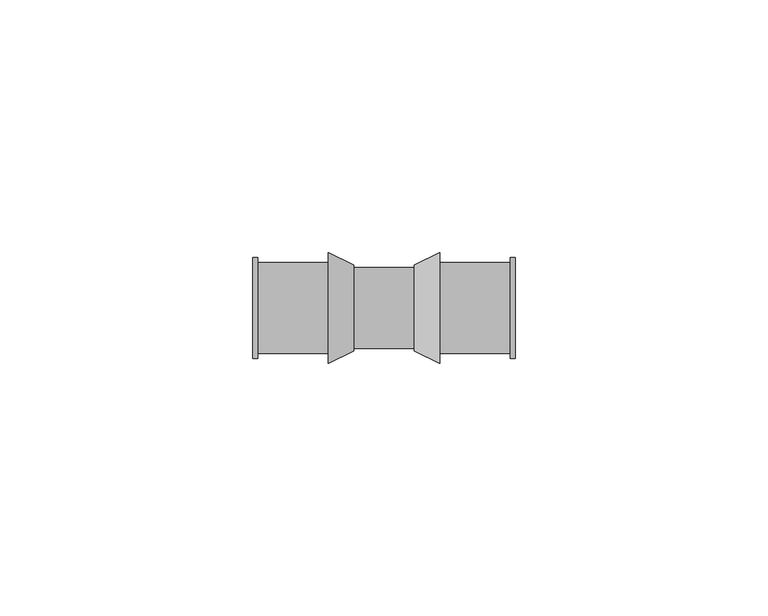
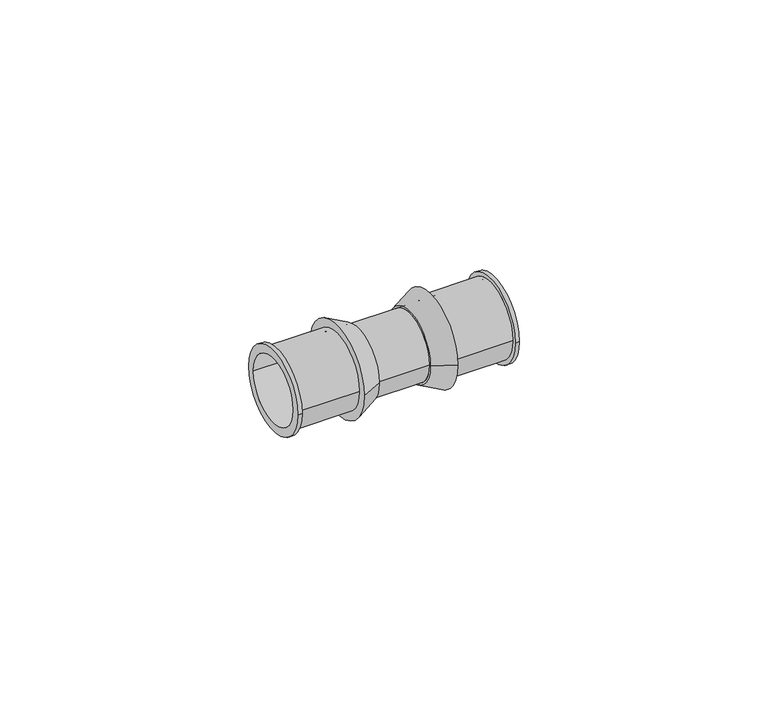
"""IFC4 building model written with IfcOpenShell, lengths in millimetres: pipe fitting geometry, SuperPipe_Coupling_SPressPlus : SuperPipe_Coupling_SPressPlus."""

from ifc_helpers import new_model, si_unit, point, frame, origin, origin_2d, place, context, project, spatial, polyline, circle_curve, trimmed, segment, composite_curve, outline, extrude, source, transform, mapped, element, save
from ifc_brep_helpers import plane_surface, cylinder_surface, revolved_surface, advanced_brep


def pipe_fitting_8bcbff30(model_context):
    return source(origin(), model_context, "Body", "SolidModel", [
        advanced_brep(
        [(-26.0, -10.0, 0.0), (-26.0, 10.0, 0.0), (-26.0, -8.0, 0.0), (-26.0, 8.0, 0.0), (-11.0, -9.0, 0.0), (-11.0, 9.0, 0.0), (-11.0, -8.0, 0.0), (-11.0, 8.0, 0.0), (-25.0, -8.0, 0.0), (-25.0, 8.0, 0.0), (-25.0, 9.0, 0.0), (-25.0, -9.0, 0.0), (-25.0, -10.0, 0.0), (-25.0, 10.0, 0.0)],
        [
            (0, 1, circle_curve(frame((-26.0, 0.0, 0.0), z_axis=(-1.0, 0.0, 0.0), x_axis=(0.0, 1.0, 0.0)), 10.0)),
            (1, 0, circle_curve(frame((-26.0, 0.0, 0.0), z_axis=(-1.0, 0.0, 0.0), x_axis=(0.0, 1.0, 0.0)), 10.0)),
            (2, 3, circle_curve(frame((-26.0, 0.0, 0.0), z_axis=(1.0, 0.0, 0.0), x_axis=(0.0, 1.0, 0.0)), 8.0)),
            (3, 2, circle_curve(frame((-26.0, 0.0, 0.0), z_axis=(1.0, 0.0, 0.0), x_axis=(0.0, 1.0, 0.0)), 8.0)),
            (4, 5, circle_curve(frame((-11.0, 0.0, 0.0), z_axis=(1.0, 0.0, 0.0), x_axis=(0.0, 1.0, 0.0)), 9.0)),
            (5, 4, circle_curve(frame((-11.0, 0.0, 0.0), z_axis=(1.0, 0.0, 0.0), x_axis=(0.0, 1.0, 0.0)), 9.0)),
            (6, 7, circle_curve(frame((-11.0, 0.0, 0.0), z_axis=(-1.0, 0.0, 0.0), x_axis=(0.0, 1.0, 0.0)), 8.0)),
            (7, 6, circle_curve(frame((-11.0, 0.0, 0.0), z_axis=(-1.0, 0.0, 0.0), x_axis=(0.0, 1.0, 0.0)), 8.0)),
            (2, 8),
            (8, 6),
            (7, 9),
            (9, 3),
            (5, 10),
            (10, 11, circle_curve(frame((-25.0, 0.0, 0.0), z_axis=(1.0, 0.0, 0.0), x_axis=(0.0, 1.0, 0.0)), 9.0)),
            (11, 4),
            (11, 10, circle_curve(frame((-25.0, 0.0, 0.0), z_axis=(1.0, 0.0, 0.0), x_axis=(0.0, 1.0, 0.0)), 9.0)),
            (12, 13, circle_curve(frame((-25.0, 0.0, 0.0), z_axis=(1.0, 0.0, 0.0), x_axis=(0.0, 1.0, 0.0)), 10.0)),
            (13, 12, circle_curve(frame((-25.0, 0.0, 0.0), z_axis=(1.0, 0.0, 0.0), x_axis=(0.0, 1.0, 0.0)), 10.0)),
            (0, 12),
            (13, 1),
        ],
        [
            plane_surface(frame((-26.0, 0.0, 0.0), z_axis=(-1.0, 0.0, 0.0), x_axis=(0.0, 0.0, 1.0))),
            plane_surface(frame((-11.0, 0.0, 0.0), z_axis=(1.0, 0.0, 0.0), x_axis=(0.0, 0.0, 1.0))),
            revolved_surface(polyline([(-11.0, 8.0, 0.0), (-26.0, 8.0, 0.0)]), (-26.0, 0.0, 0.0), (1.0, 0.0, 0.0)),
            cylinder_surface(frame((-26.0, 0.0, 0.0), z_axis=(-1.0, 0.0, 0.0), x_axis=(0.0, 1.0, 0.0)), 9.0),
            plane_surface(frame((-25.0, 0.0, 0.0), z_axis=(1.0, 0.0, 0.0), x_axis=(0.0, 0.0, 1.0))),
            cylinder_surface(frame((-26.0, 0.0, 0.0), z_axis=(-1.0, 0.0, 0.0), x_axis=(0.0, 1.0, 0.0)), 10.0),
        ],
        [
            (0, [[1, 2], [3, 4]]),
            (1, [[5, 6], [7, 8]]),
            (2, [[-3, 9, 10, -8, 11, 12]]),
            (2, [[-4, -12, -11, -7, -10, -9]]),
            (3, [[-6, 13, 14, 15]]),
            (3, [[-5, -15, 16, -13]]),
            (4, [[17, 18], [-14, -16]]),
            (5, [[-1, 19, -18, 20]]),
            (5, [[-2, -20, -17, -19]]),
        ],
    ),
        advanced_brep(
        [(11.0, -9.0, 0.0), (11.0, 9.0, 0.0), (11.0, -8.0, 0.0), (11.0, 8.0, 0.0), (26.0, -10.0, 0.0), (26.0, 10.0, 0.0), (26.0, -8.0, 0.0), (26.0, 8.0, 0.0), (25.0, -9.0, 0.0), (25.0, 9.0, 0.0), (25.0, -8.0, 0.0), (25.0, 8.0, 0.0), (25.0, -10.0, 0.0), (25.0, 10.0, 0.0)],
        [
            (0, 1, circle_curve(frame((11.0, 0.0, 0.0), z_axis=(-1.0, 0.0, 0.0), x_axis=(0.0, 1.0, 0.0)), 9.0)),
            (1, 0, circle_curve(frame((11.0, 0.0, 0.0), z_axis=(-1.0, 0.0, 0.0), x_axis=(0.0, 1.0, 0.0)), 9.0)),
            (2, 3, circle_curve(frame((11.0, 0.0, 0.0), z_axis=(1.0, 0.0, 0.0), x_axis=(0.0, 1.0, 0.0)), 8.0)),
            (3, 2, circle_curve(frame((11.0, 0.0, 0.0), z_axis=(1.0, 0.0, 0.0), x_axis=(0.0, 1.0, 0.0)), 8.0)),
            (4, 5, circle_curve(frame((26.0, 0.0, 0.0), z_axis=(1.0, 0.0, 0.0), x_axis=(0.0, 1.0, 0.0)), 10.0)),
            (5, 4, circle_curve(frame((26.0, 0.0, 0.0), z_axis=(1.0, 0.0, 0.0), x_axis=(0.0, 1.0, 0.0)), 10.0)),
            (6, 7, circle_curve(frame((26.0, 0.0, 0.0), z_axis=(-1.0, 0.0, 0.0), x_axis=(0.0, 1.0, 0.0)), 8.0)),
            (7, 6, circle_curve(frame((26.0, 0.0, 0.0), z_axis=(-1.0, 0.0, 0.0), x_axis=(0.0, 1.0, 0.0)), 8.0)),
            (0, 8),
            (8, 9, circle_curve(frame((25.0, 0.0, 0.0), z_axis=(-1.0, 0.0, 0.0), x_axis=(0.0, 1.0, 0.0)), 9.0)),
            (9, 1),
            (9, 8, circle_curve(frame((25.0, 0.0, 0.0), z_axis=(-1.0, 0.0, 0.0), x_axis=(0.0, 1.0, 0.0)), 9.0)),
            (2, 10),
            (10, 6),
            (7, 11),
            (11, 3),
            (12, 13, circle_curve(frame((25.0, 0.0, 0.0), z_axis=(-1.0, 0.0, 0.0), x_axis=(0.0, 1.0, 0.0)), 10.0)),
            (13, 12, circle_curve(frame((25.0, 0.0, 0.0), z_axis=(-1.0, 0.0, 0.0), x_axis=(0.0, 1.0, 0.0)), 10.0)),
            (12, 4),
            (5, 13),
        ],
        [
            plane_surface(frame((11.0, 0.0, 0.0), z_axis=(-1.0, 0.0, 0.0), x_axis=(0.0, 0.0, 1.0))),
            plane_surface(frame((26.0, 0.0, 0.0), z_axis=(1.0, 0.0, 0.0), x_axis=(0.0, 0.0, 1.0))),
            cylinder_surface(frame((11.0, 0.0, 0.0), z_axis=(-1.0, 0.0, 0.0), x_axis=(0.0, 1.0, 0.0)), 9.0),
            revolved_surface(polyline([(26.0, 8.0, 0.0), (11.0, 8.0, 0.0)]), (11.0, 0.0, 0.0), (1.0, 0.0, 0.0)),
            plane_surface(frame((25.0, 0.0, 0.0), z_axis=(-1.0, 0.0, 0.0), x_axis=(0.0, 0.0, 1.0))),
            cylinder_surface(frame((25.0, 0.0, 0.0), z_axis=(-1.0, 0.0, 0.0), x_axis=(0.0, 1.0, 0.0)), 10.0),
        ],
        [
            (0, [[1, 2], [3, 4]]),
            (1, [[5, 6], [7, 8]]),
            (2, [[-1, 9, 10, 11]]),
            (2, [[-2, -11, 12, -9]]),
            (3, [[-3, 13, 14, -8, 15, 16]]),
            (3, [[-4, -16, -15, -7, -14, -13]]),
            (4, [[17, 18], [-10, -12]]),
            (5, [[-17, 19, -6, 20]]),
            (5, [[-18, -20, -5, -19]]),
        ],
    ),
        advanced_brep(
        [(11.0, -11.0, 0.0), (11.0, 11.0, 0.0), (11.0, 8.0, 0.0), (11.0, -8.0, 0.0), (6.0, -8.5, 0.0), (6.0, 8.5, 0.0), (6.0, -8.0, 0.0), (6.0, 8.0, 0.0)],
        [
            (0, 1, circle_curve(frame((11.0, 0.0, 0.0), z_axis=(1.0, 0.0, 0.0), x_axis=(0.0, -1.0, 0.0)), 11.0)),
            (1, 0, circle_curve(frame((11.0, 0.0, 0.0), z_axis=(1.0, 0.0, 0.0), x_axis=(0.0, 1.0, 0.0)), 11.0)),
            (2, 3, circle_curve(frame((11.0, 0.0, 0.0), z_axis=(-1.0, 0.0, 0.0), x_axis=(0.0, 1.0, 0.0)), 8.0)),
            (3, 2, circle_curve(frame((11.0, 0.0, 0.0), z_axis=(-1.0, 0.0, 0.0), x_axis=(0.0, 1.0, 0.0)), 8.0)),
            (4, 5, circle_curve(frame((6.0, 0.0, 0.0), z_axis=(-1.0, 0.0, 0.0), x_axis=(0.0, 1.0, 0.0)), 8.5)),
            (5, 4, circle_curve(frame((6.0, 0.0, 0.0), z_axis=(-1.0, 0.0, 0.0), x_axis=(0.0, -1.0, 0.0)), 8.5)),
            (6, 7, circle_curve(frame((6.0, 0.0, 0.0), z_axis=(1.0, 0.0, 0.0), x_axis=(0.0, 1.0, 0.0)), 8.0)),
            (7, 6, circle_curve(frame((6.0, 0.0, 0.0), z_axis=(1.0, 0.0, 0.0), x_axis=(0.0, 1.0, 0.0)), 8.0)),
            (0, 4),
            (5, 1),
            (2, 7),
            (6, 3),
        ],
        [
            plane_surface(frame((11.0, 0.0, 0.0), z_axis=(1.0, 0.0, 0.0), x_axis=(0.0, 0.0, -1.0))),
            plane_surface(frame((6.0, 0.0, 0.0), z_axis=(-1.0, 0.0, 0.0), x_axis=(0.0, 0.0, -1.0))),
            revolved_surface(polyline([(6.0, 8.5, 0.0), (11.0, 11.0, 0.0)]), (-11.0, 0.0, 0.0), (1.0, 0.0, 0.0)),
            revolved_surface(polyline([(6.0, -8.5, 0.0), (11.0, -11.0, 0.0)]), (-11.0, 0.0, 0.0), (1.0, 0.0, 0.0)),
            revolved_surface(polyline([(11.0, 8.0, 0.0), (6.0, 8.0, 0.0)]), (6.0, 0.0, 0.0), (1.0, 0.0, 0.0)),
        ],
        [
            (0, [[1, 2], [3, 4]]),
            (1, [[5, 6], [7, 8]]),
            (2, [[-1, 9, -6, 10]]),
            (3, [[-2, -10, -5, -9]]),
            (4, [[11, -7, 12, -3]]),
            (4, [[-11, -4, -12, -8]]),
        ],
    ),
        advanced_brep(
        [(-6.0, -8.5, 0.0), (-6.0, 8.5, 0.0), (-6.0, 8.0, 0.0), (-6.0, -8.0, 0.0), (-11.0, -11.0, 0.0), (-11.0, 11.0, 0.0), (-11.0, -8.0, 0.0), (-11.0, 8.0, 0.0)],
        [
            (0, 1, circle_curve(frame((-6.0, 0.0, 0.0), z_axis=(1.0, 0.0, 0.0), x_axis=(0.0, -1.0, 0.0)), 8.5)),
            (1, 0, circle_curve(frame((-6.0, 0.0, 0.0), z_axis=(1.0, 0.0, 0.0), x_axis=(0.0, 1.0, 0.0)), 8.5)),
            (2, 3, circle_curve(frame((-6.0, 0.0, 0.0), z_axis=(-1.0, 0.0, 0.0), x_axis=(0.0, 1.0, 0.0)), 8.0)),
            (3, 2, circle_curve(frame((-6.0, 0.0, 0.0), z_axis=(-1.0, 0.0, 0.0), x_axis=(0.0, 1.0, 0.0)), 8.0)),
            (4, 5, circle_curve(frame((-11.0, 0.0, 0.0), z_axis=(-1.0, 0.0, 0.0), x_axis=(0.0, 1.0, 0.0)), 11.0)),
            (5, 4, circle_curve(frame((-11.0, 0.0, 0.0), z_axis=(-1.0, 0.0, 0.0), x_axis=(0.0, -1.0, 0.0)), 11.0)),
            (6, 7, circle_curve(frame((-11.0, 0.0, 0.0), z_axis=(1.0, 0.0, 0.0), x_axis=(0.0, 1.0, 0.0)), 8.0)),
            (7, 6, circle_curve(frame((-11.0, 0.0, 0.0), z_axis=(1.0, 0.0, 0.0), x_axis=(0.0, 1.0, 0.0)), 8.0)),
            (0, 4),
            (5, 1),
            (2, 7),
            (6, 3),
        ],
        [
            plane_surface(frame((-6.0, 0.0, 0.0), z_axis=(1.0, 0.0, 0.0), x_axis=(0.0, 0.0, -1.0))),
            plane_surface(frame((-11.0, 0.0, 0.0), z_axis=(-1.0, 0.0, 0.0), x_axis=(0.0, 0.0, -1.0))),
            revolved_surface(polyline([(-6.0, -8.5, 0.0), (-11.0, -11.0, 0.0)]), (11.0, 0.0, 0.0), (-1.0, 0.0, 0.0)),
            revolved_surface(polyline([(-6.0, 8.5, 0.0), (-11.0, 11.0, 0.0)]), (11.0, 0.0, 0.0), (-1.0, 0.0, 0.0)),
            revolved_surface(polyline([(-6.0, 8.0, 0.0), (-11.0, 8.0, 0.0)]), (-11.0, 0.0, 0.0), (1.0, 0.0, 0.0)),
        ],
        [
            (0, [[1, 2], [3, 4]]),
            (1, [[5, 6], [7, 8]]),
            (2, [[-1, 9, -6, 10]]),
            (3, [[-2, -10, -5, -9]]),
            (4, [[11, -7, 12, -3]]),
            (4, [[-11, -4, -12, -8]]),
        ],
    ),
        extrude(outline(composite_curve([segment(trimmed(circle_curve(origin_2d(), 8.0), [point((-8.0, 0.0))], [point((8.0, 0.0))], False, "CARTESIAN"), True, "CONTINUOUS"), segment(trimmed(circle_curve(origin_2d(), 8.0), [point((8.0, 0.0))], [point((-8.0, 0.0))], False, "CARTESIAN"), True, "CONTINUOUS")], self_intersect=False)), frame((-6.0, 0.0, 0.0), z_axis=(1.0, 0.0, 0.0), x_axis=(0.0, 1.0, 0.0)), (0.0, 0.0, 1.0), 12.0),
    ])


if __name__ == "__main__":
    model = new_model("IFC4")
    model_context = context("Model", 3, world=origin())
    ifc_project = project(units=[si_unit("LENGTHUNIT", "METRE", prefix="MILLI")], contexts=[model_context])
    site = spatial("IfcSite", under=ifc_project)
    building = spatial("IfcBuilding", under=site)
    placement = place(None, origin())
    pipe_fitting_shape = pipe_fitting_8bcbff30(model_context)
    element("IfcPipeFitting", 1, ObjectType="SuperPipe_Coupling_SPressPlus : SuperPipe_Coupling_SPressPlus", at=placement, inside=building, context=model_context, shape_type="MappedRepresentation", body=[
        mapped(pipe_fitting_shape, transform((0.0, 0.0, 0.0), x_axis=(1.0, 0.0, 0.0), y_axis=(0.0, 1.0, 0.0), z_axis=(0.0, 0.0, 1.0))),
    ])
    save(model, "model.ifc")
